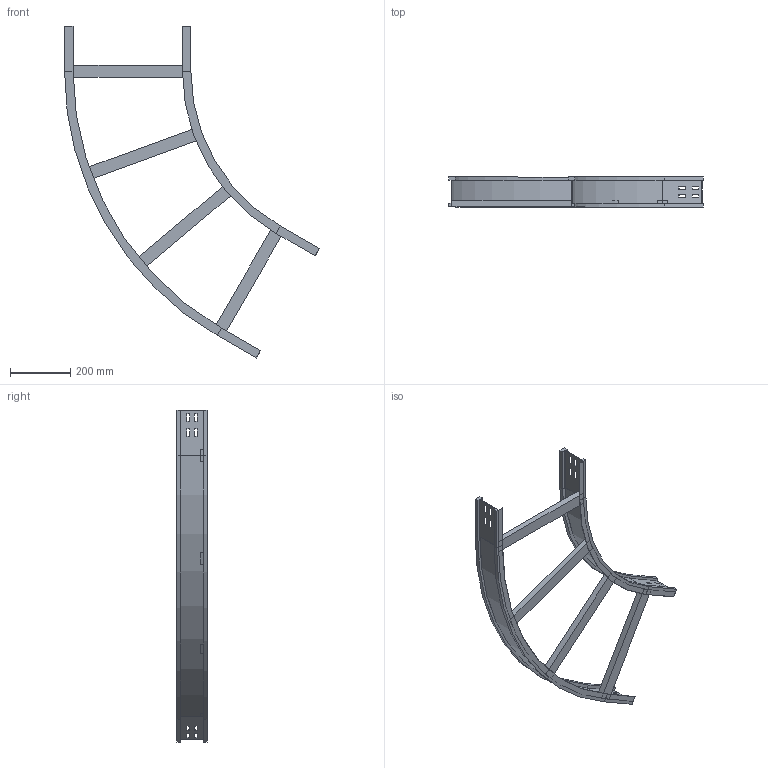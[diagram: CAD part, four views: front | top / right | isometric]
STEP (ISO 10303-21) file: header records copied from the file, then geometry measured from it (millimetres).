
FILE_DESCRIPTION (( 'STEP AP214' ), '1' );
FILE_NAME ('13S6D400.step', '2025-02-21T16:06:56', ( '' ), ( '' ), 'SwSTEP 2.0', 'SolidWorks 2023', '' );
FILE_SCHEMA (( 'AUTOMOTIVE_DESIGN' ));
Length unit declared in the file: millimetre
Products named in the file (4): TRAVERSINO_400; LONGH.ESTERNO 60°_H100_R600+400; 13S6D400; LONGH.INTERNO 60°_H100_R600
Assembly tree (6 placements, depth 2):
  13S6D400
    LONGH.INTERNO 60°_H100_R600
    LONGH.ESTERNO 60°_H100_R600+400
    TRAVERSINO_400  x4
Bounding box: 843.4 x 100 x 1098.82 mm (x, y, z)
Volume: 2487472.4 mm3; surface area: 871009.3 mm2
Topology: 6 solids, 6 shells, 164 faces, 408 edges, 256 vertices
Faces by surface type: plane 152, cylinder 12
Entity records: 4485 total; most frequent: CARTESIAN_POINT 759, ORIENTED_EDGE 744, DIRECTION 706, EDGE_CURVE 372, LINE 348, VECTOR 348, VERTEX_POINT 232, AXIS2_PLACEMENT_3D 179
